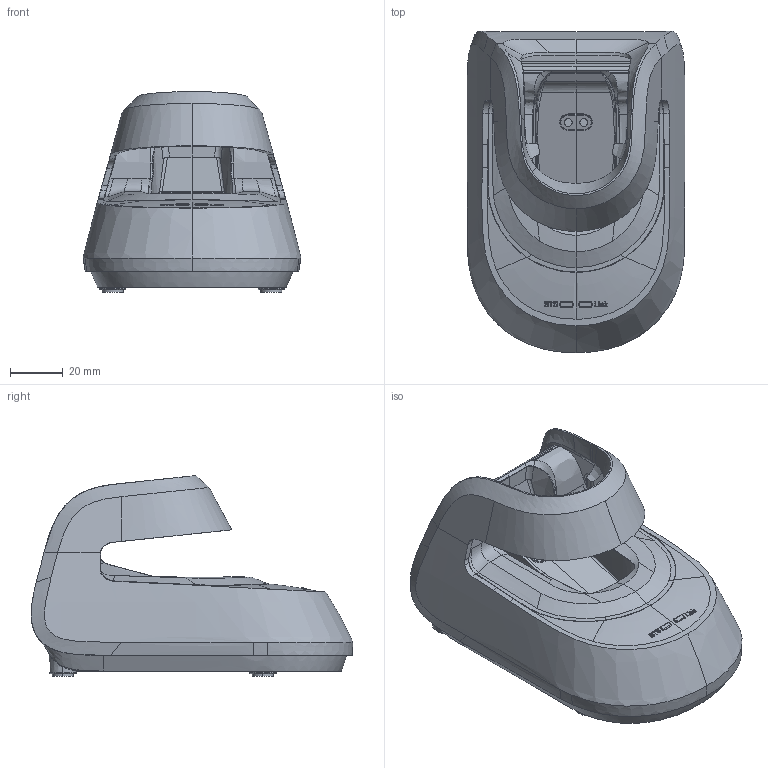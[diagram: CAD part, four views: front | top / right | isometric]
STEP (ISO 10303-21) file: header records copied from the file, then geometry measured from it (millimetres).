
FILE_DESCRIPTION((''),'2;1');
FILE_NAME('DE-30-000908_ASM','2023-11-13T16:09:38',('lizhoupeng'),(''),'CREO PARAMETRIC BY PTC INC, 2020044','CREO PARAMETRIC BY PTC INC, 2020044','');
FILE_SCHEMA(('CONFIG_CONTROL_DESIGN'));
Products named in the file (11): DE-12-003503; DE-12-003504; DE-12-003505; DE-19-007842; SC-PB2X8B-JMP; DE-20-017084_ASM; DE-12-003506; TIP-M3X4-4_5X5-SO-ET-05081553; DE-20-017085_ASM; DE-17-002736; DE-30-000908_ASM
Assembly tree (17 placements, depth 3):
  DE-30-000908_ASM
    DE-20-017084_ASM
      DE-12-003503
      DE-12-003504
      DE-12-003505
      DE-19-007842
      SC-PB2X8B-JMP  x4
    DE-20-017085_ASM
      DE-12-003506
      TIP-M3X4-4_5X5-SO-ET-05081553  x2
    DE-17-002736  x4
Bounding box: 82.57 x 121.81 x 76.07 mm (x, y, z)
Volume: 101404.9 mm3; surface area: 108174.5 mm2
Topology: 16 solids, 18 shells, 3279 faces, 8761 edges, 5551 vertices
Faces by surface type: plane 1390, bspline 931, cylinder 482, cone 290, extrusion 111, torus 56, sphere 19
Entity records: 163671 total; most frequent: CARTESIAN_POINT 98415, ORIENTED_EDGE 15750, DIRECTION 10033, EDGE_CURVE 7875, VERTEX_POINT 5026, B_SPLINE_CURVE_WITH_KNOTS 3404, VECTOR 3383, AXIS2_PLACEMENT_3D 3325
